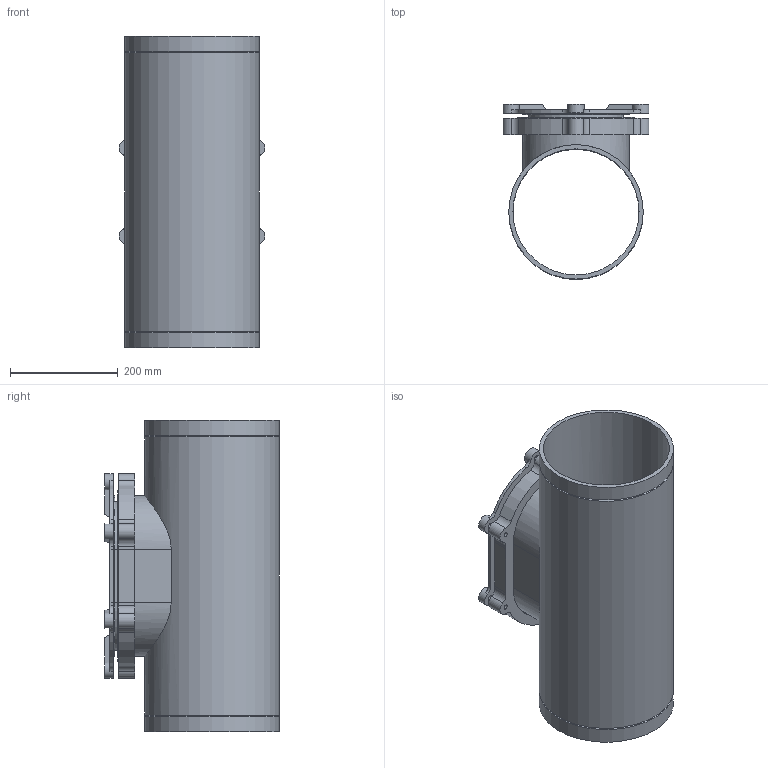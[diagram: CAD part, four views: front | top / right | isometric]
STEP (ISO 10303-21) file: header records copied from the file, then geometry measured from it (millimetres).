
FILE_DESCRIPTION(/* description */ (''),/* implementation_level */ '2;1');
FILE_NAME(/* name */ 'Z:\Geberit\Export\NewStep\371454.stp',/* time_stamp */ '2014-04-02T08:05:30+02:00',/* author */ ('Marco'),/* organization */ (''),/* preprocessor_version */ 'ST-DEVELOPER v15.2',/* originating_system */ 'Autodesk Inventor 2014',/* authorisation */ '');
FILE_SCHEMA (('AUTOMOTIVE_DESIGN { 1 0 10303 214 3 1 1 }'));
Length unit declared in the file: millimetre
Products named in the file (4): 853489; 853426; 853393; 371454
Bounding box: 271.4 x 325 x 580 mm (x, y, z)
Volume: 5051423.1 mm3; surface area: 1389210.8 mm2
Topology: 3 solids, 3 shells, 183 faces, 517 edges, 336 vertices
Faces by surface type: cylinder 87, plane 84, cone 8, bspline 4
Full cylindrical faces by diameter (mm): 8.376 x6, 12 x6, 30 x6, 234.4 x1, 250 x3
Entity records: 6343 total; most frequent: CARTESIAN_POINT 1469, DIRECTION 1031, ORIENTED_EDGE 984, EDGE_CURVE 485, AXIS2_PLACEMENT_3D 376, VERTEX_POINT 324, LINE 279, VECTOR 279
